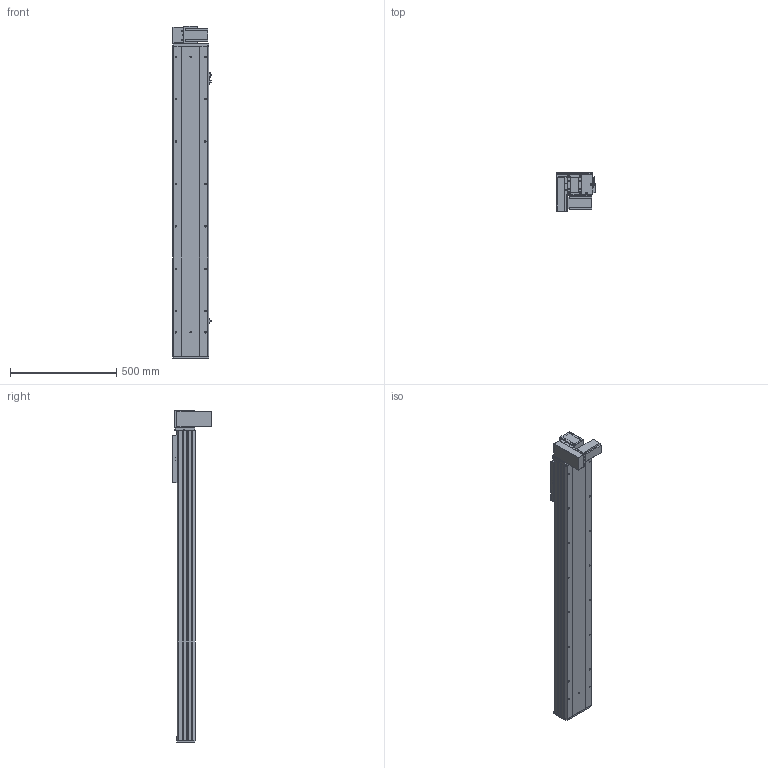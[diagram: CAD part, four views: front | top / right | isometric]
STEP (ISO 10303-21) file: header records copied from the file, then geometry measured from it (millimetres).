
FILE_DESCRIPTION (( 'STEP AP203' ), '1' );
FILE_NAME ('Y170CB-D105-S1200-BM-P400W.STEP', '2020-02-20T06:28:57', ( '微软用户' ), ( '微软中国' ), 'SwSTEP 2.0', 'SolidWorks 2017', '' );
FILE_SCHEMA (( 'CONFIG_CONTROL_DESIGN' ));
Length unit declared in the file: millimetre
Products named in the file (18): 70CB-耜裔啣-; 70C--詩湍揤踡え-; 70CB--耜裔; Y1埴倛裔; 70C-雄赽釱-奻-; B-源倛裔啣; 17B-耜蚾蟀諉啣----; 0C--雄赽釱俋欶-170; 0B-萇儂楊擘啣; 00B-俋欶BM--163; 70CB-詩湍--; san松下电机400不带刹车----; 70B喘謫眊----; Y100-135俋离換覜ん--; 70CB-掛极-; Y170CB-D105-S1200-BM-P400W; Y170CB-陔俋离換覜結え---; --70CB --喘謫眊楊擘啣-
Assembly tree (21 placements, depth 2):
  Y170CB-D105-S1200-BM-P400W
    B-源倛裔啣
    0B-萇儂楊擘啣
    san松下电机400不带刹车----
    70CB-掛极-
    --70CB --喘謫眊楊擘啣-
    70CB-耜裔啣-  x2
    70C--詩湍揤踡え-  x2
    70CB--耜裔
    70C-雄赽釱-奻-
    0C--雄赽釱俋欶-170
    70CB-詩湍--
    Y100-135俋离換覜ん--  x3
    Y170CB-陔俋离換覜結え---
    Y1埴倛裔
    17B-耜蚾蟀諉啣----
    00B-俋欶BM--163
    70B喘謫眊----
Bounding box: 183.5 x 184 x 1566 mm (x, y, z)
Volume: 7129841.6 mm3; surface area: 2558931.3 mm2
Topology: 21 solids, 21 shells, 1015 faces, 2717 edges, 1802 vertices
Faces by surface type: cylinder 529, plane 462, cone 24
Entity records: 32328 total; most frequent: CARTESIAN_POINT 5916, DIRECTION 5258, ORIENTED_EDGE 4916, EDGE_CURVE 2458, AXIS2_PLACEMENT_3D 1928, VERTEX_POINT 1632, LINE 1402, VECTOR 1402
